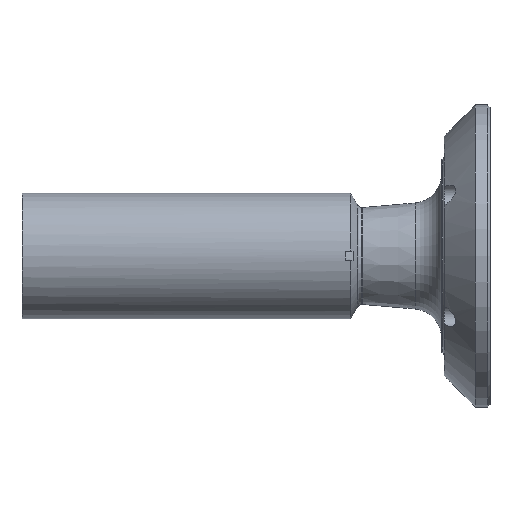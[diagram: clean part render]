
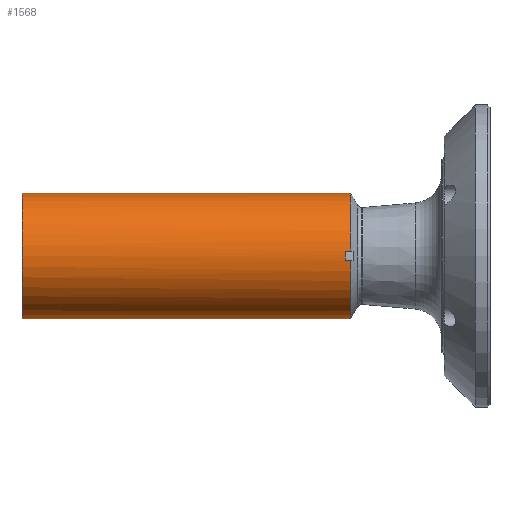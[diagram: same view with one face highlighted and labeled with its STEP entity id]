
A CAD part, top view. The second image highlights one B-rep face of the part: STEP entity #1568.
In plain terms, the highlighted cylindrical face has radius 26 mm (diameter 52 mm), a partial arc.
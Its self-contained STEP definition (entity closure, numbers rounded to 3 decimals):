
#1 = VERTEX_POINT ( 'NONE', #103 ) ;
#4 = VERTEX_POINT ( 'NONE', #255 ) ;
#35 = AXIS2_PLACEMENT_3D ( 'NONE', #1039, #1046, #1047 ) ;
#56 = ORIENTED_EDGE ( 'NONE', *, *, #270, .F. ) ;
#57 = ORIENTED_EDGE ( 'NONE', *, *, #237, .F. ) ;
#88 = B_SPLINE_CURVE_WITH_KNOTS ( 'NONE', 3,
 ( #890, #895, #896, #897 ),
 .UNSPECIFIED., .F., .F.,
 ( 4, 4 ),
 ( 0., 0.004 ),
 .UNSPECIFIED. ) ;
#103 = CARTESIAN_POINT ( 'NONE',  ( 1522.381, -2., 1790.923 ) ) ;
#106 = AXIS2_PLACEMENT_3D ( 'NONE', #901, #902, #903 ) ;
#109 = AXIS2_PLACEMENT_3D ( 'NONE', #904, #906, #907 ) ;
#119 = ORIENTED_EDGE ( 'NONE', *, *, #267, .F. ) ;
#120 = ORIENTED_EDGE ( 'NONE', *, *, #268, .T. ) ;
#121 = ORIENTED_EDGE ( 'NONE', *, *, #272, .F. ) ;
#184 = AXIS2_PLACEMENT_3D ( 'NONE', #1436, #1435, #1434 ) ;
#237 = EDGE_CURVE ( 'NONE', #682, #1, #1736, .T. ) ;
#255 = CARTESIAN_POINT ( 'NONE',  ( 1522.381, -26., 1765. ) ) ;
#262 = ORIENTED_EDGE ( 'NONE', *, *, #273, .F. ) ;
#267 = EDGE_CURVE ( 'NONE', #680, #682, #88, .T. ) ;
#268 = EDGE_CURVE ( 'NONE', #680, #679, #1768, .T. ) ;
#270 = EDGE_CURVE ( 'NONE', #1, #4, #1779, .T. ) ;
#271 = EDGE_CURVE ( 'NONE', #638, #4, #1778, .T. ) ;
#272 = EDGE_CURVE ( 'NONE', #634, #679, #1781, .T. ) ;
#273 = EDGE_CURVE ( 'NONE', #637, #634, #1776, .T. ) ;
#315 = EDGE_CURVE ( 'NONE', #638, #637, #1821, .T. ) ;
#533 = EDGE_LOOP ( 'NONE', ( #1587, #1586, #56, #57, #119, #120, #121, #262 ) ) ;
#634 = VERTEX_POINT ( 'NONE', #1263 ) ;
#637 = VERTEX_POINT ( 'NONE', #1266 ) ;
#638 = VERTEX_POINT ( 'NONE', #1267 ) ;
#679 = VERTEX_POINT ( 'NONE', #1308 ) ;
#680 = VERTEX_POINT ( 'NONE', #1309 ) ;
#682 = VERTEX_POINT ( 'NONE', #1311 ) ;
#768 = CARTESIAN_POINT ( 'NONE',  ( 1445., -2., 1790.923 ) ) ;
#769 = DIRECTION ( 'NONE',  ( 1., 0., 0. ) ) ;
#890 = CARTESIAN_POINT ( 'NONE',  ( 1520.302, 2., 1790.923 ) ) ;
#893 = CARTESIAN_POINT ( 'NONE',  ( 1445., 2., 1790.923 ) ) ;
#895 = CARTESIAN_POINT ( 'NONE',  ( 1520.153, 0.667, 1791.026 ) ) ;
#896 = CARTESIAN_POINT ( 'NONE',  ( 1520.153, -0.667, 1791.026 ) ) ;
#897 = CARTESIAN_POINT ( 'NONE',  ( 1520.302, -2., 1790.923 ) ) ;
#898 = DIRECTION ( 'NONE',  ( 1., 0., 0. ) ) ;
#899 = CARTESIAN_POINT ( 'NONE',  ( 1445., -26., 1765. ) ) ;
#901 = CARTESIAN_POINT ( 'NONE',  ( 1522.381, 0., 1765. ) ) ;
#902 = DIRECTION ( 'NONE',  ( 1., 0., 0. ) ) ;
#903 = DIRECTION ( 'NONE',  ( 0., 1., 0. ) ) ;
#904 = CARTESIAN_POINT ( 'NONE',  ( 1522.381, 0., 1765. ) ) ;
#905 = DIRECTION ( 'NONE',  ( 1., 0., 0. ) ) ;
#906 = DIRECTION ( 'NONE',  ( 1., 0., 0. ) ) ;
#907 = DIRECTION ( 'NONE',  ( 0., 1., 0. ) ) ;
#909 = CARTESIAN_POINT ( 'NONE',  ( 1445., 26., 1765. ) ) ;
#910 = DIRECTION ( 'NONE',  ( 1., 0., 0. ) ) ;
#1039 = CARTESIAN_POINT ( 'NONE',  ( 1386.5, 0., 1765. ) ) ;
#1046 = DIRECTION ( 'NONE',  ( -1., 0., 0. ) ) ;
#1047 = DIRECTION ( 'NONE',  ( 0., -1., 0. ) ) ;
#1263 = CARTESIAN_POINT ( 'NONE',  ( 1522.381, 26., 1765. ) ) ;
#1266 = CARTESIAN_POINT ( 'NONE',  ( 1386.5, 26., 1765. ) ) ;
#1267 = CARTESIAN_POINT ( 'NONE',  ( 1386.5, -26., 1765. ) ) ;
#1308 = CARTESIAN_POINT ( 'NONE',  ( 1522.381, 2., 1790.923 ) ) ;
#1309 = CARTESIAN_POINT ( 'NONE',  ( 1520.302, 2., 1790.923 ) ) ;
#1311 = CARTESIAN_POINT ( 'NONE',  ( 1520.302, -2., 1790.923 ) ) ;
#1434 = DIRECTION ( 'NONE',  ( 0., 1., 0. ) ) ;
#1435 = DIRECTION ( 'NONE',  ( 1., 0., 0. ) ) ;
#1436 = CARTESIAN_POINT ( 'NONE',  ( 1445., 0., 1765. ) ) ;
#1568 = ADVANCED_FACE ( 'NONE', ( #1928 ), #1931, .T. ) ;
#1586 = ORIENTED_EDGE ( 'NONE', *, *, #271, .T. ) ;
#1587 = ORIENTED_EDGE ( 'NONE', *, *, #315, .F. ) ;
#1736 = LINE ( 'NONE', #768, #1740 ) ;
#1740 = VECTOR ( 'NONE', #769, 1000. ) ;
#1768 = LINE ( 'NONE', #893, #1769 ) ;
#1769 = VECTOR ( 'NONE', #898, 1000. ) ;
#1775 = VECTOR ( 'NONE', #905, 1000. ) ;
#1776 = LINE ( 'NONE', #909, #1777 ) ;
#1777 = VECTOR ( 'NONE', #910, 1000. ) ;
#1778 = LINE ( 'NONE', #899, #1775 ) ;
#1779 = CIRCLE ( 'NONE', #106, 26. ) ;
#1781 = CIRCLE ( 'NONE', #109, 26. ) ;
#1821 = CIRCLE ( 'NONE', #35, 26. ) ;
#1928 = FACE_OUTER_BOUND ( 'NONE', #533, .T. ) ;
#1931 = CYLINDRICAL_SURFACE ( 'NONE', #184, 26. ) ;
